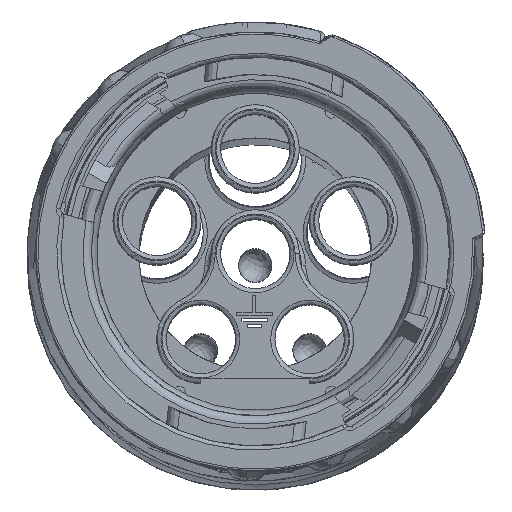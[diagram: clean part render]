
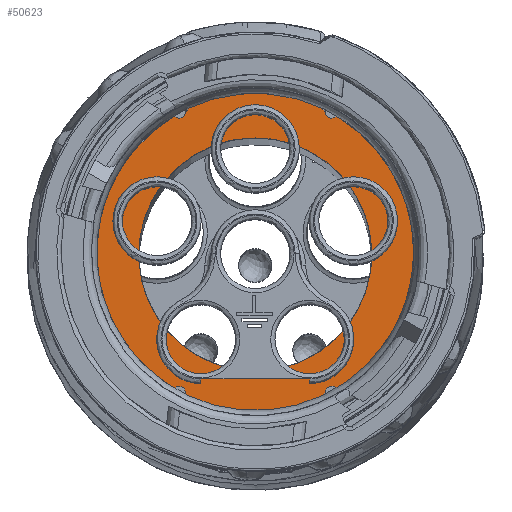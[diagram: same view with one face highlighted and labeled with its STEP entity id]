
A CAD part, top view. The second image highlights one B-rep face of the part: STEP entity #50623.
In plain terms, the highlighted planar face has unit normal (0, 0, -1).
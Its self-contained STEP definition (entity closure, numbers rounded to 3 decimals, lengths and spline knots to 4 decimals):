
#1434 = EDGE_CURVE ( 'NONE', #30185, #30185, #17613, .T. ) ;
#5222 = CARTESIAN_POINT ( 'NONE',  ( 2.379, -2.769, -45.7882 ) ) ;
#12866 = EDGE_CURVE ( 'NONE', #31703, #31703, #38640, .T. ) ;
#13218 = ORIENTED_EDGE ( 'NONE', *, *, #12866, .T. ) ;
#14629 = AXIS2_PLACEMENT_3D ( 'NONE', #16672, #35632, #30964 ) ;
#15109 = DIRECTION ( 'NONE',  ( 0., 0., -1. ) ) ;
#15144 = DIRECTION ( 'NONE',  ( -1., 0., 0. ) ) ;
#16672 = CARTESIAN_POINT ( 'NONE',  ( 2.379, -2.769, -45.7882 ) ) ;
#17613 = CIRCLE ( 'NONE', #14629, 5.55 ) ;
#20090 = FACE_BOUND ( 'NONE', #51129, .T. ) ;
#20812 = AXIS2_PLACEMENT_3D ( 'NONE', #5222, #38145, #15144 ) ;
#23363 = AXIS2_PLACEMENT_3D ( 'NONE', #53320, #15109, #29106 ) ;
#24758 = FACE_OUTER_BOUND ( 'NONE', #40211, .T. ) ;
#29106 = DIRECTION ( 'NONE',  ( -1., 0., 0. ) ) ;
#30185 = VERTEX_POINT ( 'NONE', #49733 ) ;
#30964 = DIRECTION ( 'NONE',  ( -1., 0., 0. ) ) ;
#31703 = VERTEX_POINT ( 'NONE', #51559 ) ;
#35632 = DIRECTION ( 'NONE',  ( 0., 0., -1. ) ) ;
#38145 = DIRECTION ( 'NONE',  ( 0., 0., -1. ) ) ;
#38640 = CIRCLE ( 'NONE', #20812, 7.6918 ) ;
#40211 = EDGE_LOOP ( 'NONE', ( #13218 ) ) ;
#44623 = ORIENTED_EDGE ( 'NONE', *, *, #1434, .F. ) ;
#49733 = CARTESIAN_POINT ( 'NONE',  ( -3.171, -2.769, -45.7882 ) ) ;
#50623 = ADVANCED_FACE ( 'NONE', ( #24758, #20090 ), #57674, .T. ) ;
#51129 = EDGE_LOOP ( 'NONE', ( #44623 ) ) ;
#51559 = CARTESIAN_POINT ( 'NONE',  ( -5.3127, -2.769, -45.7882 ) ) ;
#53320 = CARTESIAN_POINT ( 'NONE',  ( 2.379, -2.769, -45.7882 ) ) ;
#57674 = PLANE ( 'NONE',  #23363 ) ;
